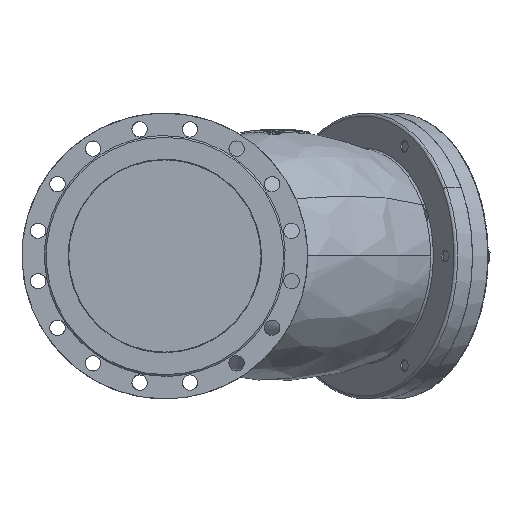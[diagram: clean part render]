
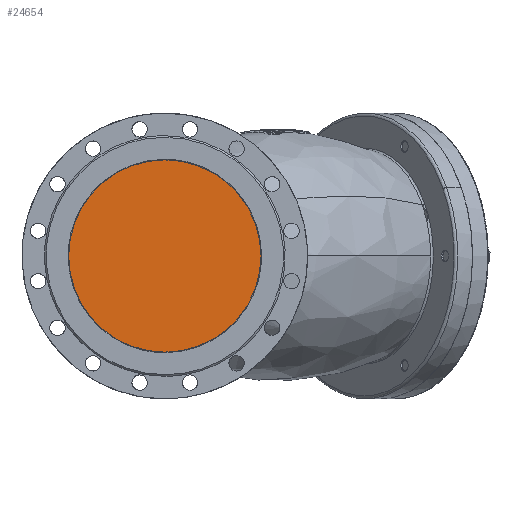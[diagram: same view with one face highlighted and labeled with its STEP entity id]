
A CAD part, left-side view. The second image highlights one B-rep face of the part: STEP entity #24654.
In plain terms, the highlighted planar face has unit normal (-1, 0, 0).
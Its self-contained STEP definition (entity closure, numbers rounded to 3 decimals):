
#2225 = DIRECTION ( 'NONE',  ( 0., 0., -1. ) ) ;
#2267 = DIRECTION ( 'NONE',  ( 0., 0., -1. ) ) ;
#13202 = CARTESIAN_POINT ( 'NONE',  ( 21.024, 0., 0. ) ) ;
#17704 = CARTESIAN_POINT ( 'NONE',  ( 21.024, 0., 0. ) ) ;
#22823 = FACE_OUTER_BOUND ( 'NONE', #34364, .T. ) ;
#24266 = AXIS2_PLACEMENT_3D ( 'NONE', #13202, #29626, #2225 ) ;
#24654 = ADVANCED_FACE ( 'NONE', ( #22823 ), #43705, .F. ) ;
#27547 = AXIS2_PLACEMENT_3D ( 'NONE', #17704, #38569, #2267 ) ;
#28068 = ORIENTED_EDGE ( 'NONE', *, *, #35470, .T. ) ;
#29626 = DIRECTION ( 'NONE',  ( -1., 0., 0. ) ) ;
#34364 = EDGE_LOOP ( 'NONE', ( #28068 ) ) ;
#35205 = CIRCLE ( 'NONE', #24266, 175. ) ;
#35470 = EDGE_CURVE ( 'NONE', #50563, #50563, #35205, .T. ) ;
#38569 = DIRECTION ( 'NONE',  ( 1., 0., 0. ) ) ;
#43705 = PLANE ( 'NONE',  #27547 ) ;
#50563 = VERTEX_POINT ( 'NONE', #51556 ) ;
#51556 = CARTESIAN_POINT ( 'NONE',  ( 21.024, 0., -175. ) ) ;
